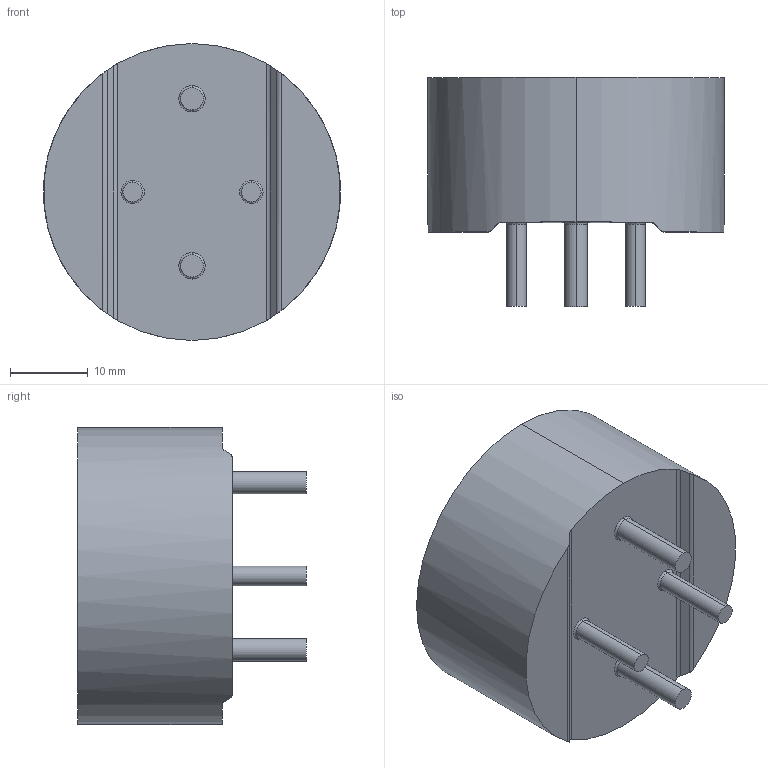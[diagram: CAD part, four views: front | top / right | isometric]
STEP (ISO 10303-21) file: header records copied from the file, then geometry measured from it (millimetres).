
FILE_DESCRIPTION (( 'STEP AP214' ), '1' );
FILE_NAME ('IHTH-1500TZ-5A 10uH.STEP', '2025-03-14T19:34:01', ( '' ), ( '' ), 'SwSTEP 2.0', 'SolidWorks 2024', '' );
FILE_SCHEMA (( 'AUTOMOTIVE_DESIGN' ));
Length unit declared in the file: inch
Products named in the file (1): IHTH-1500TZ-5A 10uH
Bounding box: 38.1 x 29.34 x 38.1 mm (x, y, z)
Volume: 21872.6 mm3; surface area: 4986.5 mm2
Topology: 1 solids, 1 shells, 200 faces, 511 edges, 338 vertices
Faces by surface type: plane 128, bspline 46, cylinder 18, torus 8
Entity records: 9070 total; most frequent: CARTESIAN_POINT 4484, ORIENTED_EDGE 1022, DIRECTION 765, EDGE_CURVE 511, VECTOR 359, LINE 359, VERTEX_POINT 338, EDGE_LOOP 225
